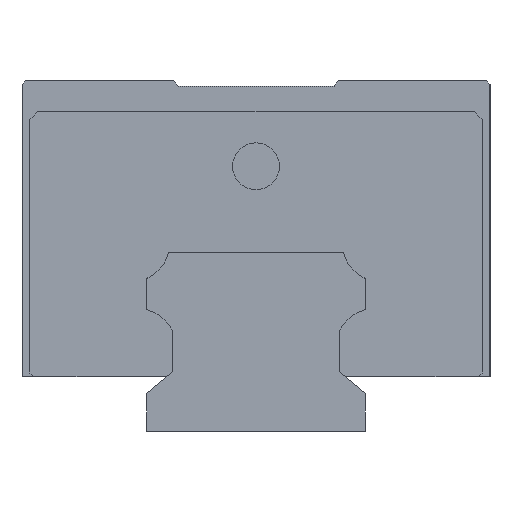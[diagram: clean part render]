
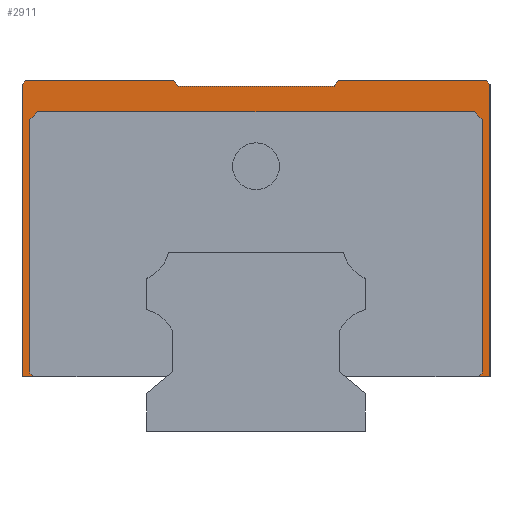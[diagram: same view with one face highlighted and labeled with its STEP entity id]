
A CAD part, left-side view. The second image highlights one B-rep face of the part: STEP entity #2911.
In plain terms, the highlighted planar face has unit normal (-1, 0, 0).
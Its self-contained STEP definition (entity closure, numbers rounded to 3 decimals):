
#21 = ORIENTED_EDGE ( 'NONE', *, *, #3723, .T. ) ;
#41 = DIRECTION ( 'NONE',  ( 0., -1., 0. ) ) ;
#42 = ORIENTED_EDGE ( 'NONE', *, *, #3996, .F. ) ;
#56 = CARTESIAN_POINT ( 'NONE',  ( -34.65, -30., 45. ) ) ;
#69 = CARTESIAN_POINT ( 'NONE',  ( -34.65, 29.5, 45. ) ) ;
#81 = LINE ( 'NONE', #1862, #2020 ) ;
#114 = VECTOR ( 'NONE', #4662, 1000. ) ;
#157 = VECTOR ( 'NONE', #41, 1000. ) ;
#183 = DIRECTION ( 'NONE',  ( 0., -0.707, 0.707 ) ) ;
#184 = ORIENTED_EDGE ( 'NONE', *, *, #1848, .F. ) ;
#218 = CARTESIAN_POINT ( 'NONE',  ( -34.65, 28., 41. ) ) ;
#281 = CARTESIAN_POINT ( 'NONE',  ( -34.65, -30., 44.5 ) ) ;
#308 = CARTESIAN_POINT ( 'NONE',  ( -34.65, -29., 40. ) ) ;
#385 = FACE_OUTER_BOUND ( 'NONE', #3831, .T. ) ;
#481 = ORIENTED_EDGE ( 'NONE', *, *, #494, .T. ) ;
#494 = EDGE_CURVE ( 'NONE', #1801, #672, #3940, .T. ) ;
#563 = CARTESIAN_POINT ( 'NONE',  ( -34.65, 28.5, 7. ) ) ;
#570 = VECTOR ( 'NONE', #1085, 1000. ) ;
#623 = VERTEX_POINT ( 'NONE', #281 ) ;
#636 = DIRECTION ( 'NONE',  ( 0., 0.707, -0.707 ) ) ;
#638 = DIRECTION ( 'NONE',  ( 0., 0.643, -0.766 ) ) ;
#672 = VERTEX_POINT ( 'NONE', #2614 ) ;
#690 = VERTEX_POINT ( 'NONE', #4053 ) ;
#738 = ORIENTED_EDGE ( 'NONE', *, *, #1367, .T. ) ;
#756 = EDGE_CURVE ( 'NONE', #623, #3307, #4089, .T. ) ;
#790 = EDGE_CURVE ( 'NONE', #2732, #1823, #81, .T. ) ;
#799 = LINE ( 'NONE', #2404, #5297 ) ;
#803 = EDGE_CURVE ( 'NONE', #4719, #5822, #2435, .T. ) ;
#829 = CARTESIAN_POINT ( 'NONE',  ( -34.65, 28., 41. ) ) ;
#963 = VECTOR ( 'NONE', #3617, 1000. ) ;
#999 = EDGE_CURVE ( 'NONE', #2915, #2759, #5748, .T. ) ;
#1017 = LINE ( 'NONE', #4706, #2856 ) ;
#1085 = DIRECTION ( 'NONE',  ( 0., 0.707, 0.707 ) ) ;
#1109 = ORIENTED_EDGE ( 'NONE', *, *, #4235, .F. ) ;
#1150 = AXIS2_PLACEMENT_3D ( 'NONE', #4103, #4899, #3158 ) ;
#1367 = EDGE_CURVE ( 'NONE', #2215, #2622, #3740, .T. ) ;
#1385 = EDGE_CURVE ( 'NONE', #623, #690, #5556, .T. ) ;
#1440 = EDGE_CURVE ( 'NONE', #5077, #2759, #1929, .T. ) ;
#1445 = DIRECTION ( 'NONE',  ( 0., -1., 0. ) ) ;
#1506 = ORIENTED_EDGE ( 'NONE', *, *, #4497, .F. ) ;
#1632 = CARTESIAN_POINT ( 'NONE',  ( -34.65, 29., 40. ) ) ;
#1695 = CARTESIAN_POINT ( 'NONE',  ( -34.65, 30., 45. ) ) ;
#1766 = CARTESIAN_POINT ( 'NONE',  ( -34.65, -30., 7. ) ) ;
#1768 = CARTESIAN_POINT ( 'NONE',  ( -34.65, -28., 41. ) ) ;
#1801 = VERTEX_POINT ( 'NONE', #563 ) ;
#1823 = VERTEX_POINT ( 'NONE', #218 ) ;
#1848 = EDGE_CURVE ( 'NONE', #2215, #690, #5492, .T. ) ;
#1858 = LINE ( 'NONE', #4991, #4843 ) ;
#1862 = CARTESIAN_POINT ( 'NONE',  ( -34.65, 29., 40. ) ) ;
#1868 = CARTESIAN_POINT ( 'NONE',  ( -34.65, 11.769, 7. ) ) ;
#1929 = LINE ( 'NONE', #5066, #4813 ) ;
#2020 = VECTOR ( 'NONE', #183, 1000. ) ;
#2073 = LINE ( 'NONE', #3878, #5685 ) ;
#2192 = DIRECTION ( 'NONE',  ( 0., 1., 0. ) ) ;
#2215 = VERTEX_POINT ( 'NONE', #3268 ) ;
#2404 = CARTESIAN_POINT ( 'NONE',  ( -34.65, 29.5, 45. ) ) ;
#2435 = LINE ( 'NONE', #4237, #3054 ) ;
#2470 = VECTOR ( 'NONE', #3359, 1000. ) ;
#2498 = ORIENTED_EDGE ( 'NONE', *, *, #3926, .T. ) ;
#2507 = LINE ( 'NONE', #5338, #5579 ) ;
#2585 = CARTESIAN_POINT ( 'NONE',  ( -34.65, 28.5, 7. ) ) ;
#2607 = DIRECTION ( 'NONE',  ( 0., 0., 1. ) ) ;
#2614 = CARTESIAN_POINT ( 'NONE',  ( -34.65, 29., 7.5 ) ) ;
#2622 = VERTEX_POINT ( 'NONE', #4316 ) ;
#2655 = LINE ( 'NONE', #4462, #5777 ) ;
#2675 = CARTESIAN_POINT ( 'NONE',  ( -34.65, 30., 44.5 ) ) ;
#2683 = ORIENTED_EDGE ( 'NONE', *, *, #1440, .T. ) ;
#2684 = CARTESIAN_POINT ( 'NONE',  ( -34.65, 30., 7. ) ) ;
#2732 = VERTEX_POINT ( 'NONE', #1632 ) ;
#2759 = VERTEX_POINT ( 'NONE', #5198 ) ;
#2856 = VECTOR ( 'NONE', #4297, 1000. ) ;
#2870 = CARTESIAN_POINT ( 'NONE',  ( -34.65, -29., 7.5 ) ) ;
#2876 = CARTESIAN_POINT ( 'NONE',  ( -34.65, -10.629, 45. ) ) ;
#2902 = CARTESIAN_POINT ( 'NONE',  ( -34.65, -28.5, 7. ) ) ;
#2911 = ADVANCED_FACE ( 'NONE', ( #385 ), #5809, .F. ) ;
#2915 = VERTEX_POINT ( 'NONE', #69 ) ;
#3000 = VERTEX_POINT ( 'NONE', #2684 ) ;
#3036 = VECTOR ( 'NONE', #1445, 1000. ) ;
#3054 = VECTOR ( 'NONE', #5259, 1000. ) ;
#3158 = DIRECTION ( 'NONE',  ( 0., 1., 0. ) ) ;
#3236 = EDGE_CURVE ( 'NONE', #5822, #4098, #2073, .T. ) ;
#3268 = CARTESIAN_POINT ( 'NONE',  ( -34.65, -10.629, 45. ) ) ;
#3307 = VERTEX_POINT ( 'NONE', #1766 ) ;
#3324 = DIRECTION ( 'NONE',  ( 0., -0.707, -0.707 ) ) ;
#3353 = EDGE_CURVE ( 'NONE', #1823, #4215, #4877, .T. ) ;
#3359 = DIRECTION ( 'NONE',  ( 0., 0., 1. ) ) ;
#3367 = ORIENTED_EDGE ( 'NONE', *, *, #790, .T. ) ;
#3617 = DIRECTION ( 'NONE',  ( 0., 0., -1. ) ) ;
#3709 = ORIENTED_EDGE ( 'NONE', *, *, #4872, .T. ) ;
#3723 = EDGE_CURVE ( 'NONE', #2915, #4360, #799, .T. ) ;
#3740 = LINE ( 'NONE', #2876, #3804 ) ;
#3804 = VECTOR ( 'NONE', #638, 1000. ) ;
#3816 = CARTESIAN_POINT ( 'NONE',  ( -34.65, 30., 45. ) ) ;
#3831 = EDGE_LOOP ( 'NONE', ( #1506, #481, #3709, #3367, #4619, #2498, #4193, #4035, #42, #5592, #4226, #184, #738, #5374, #2683, #5221, #21, #1109 ) ) ;
#3878 = CARTESIAN_POINT ( 'NONE',  ( -34.65, -29., 7.5 ) ) ;
#3926 = EDGE_CURVE ( 'NONE', #4215, #4719, #1858, .T. ) ;
#3940 = LINE ( 'NONE', #2585, #5003 ) ;
#3996 = EDGE_CURVE ( 'NONE', #3307, #4098, #1017, .T. ) ;
#4023 = DIRECTION ( 'NONE',  ( 0., 0.707, 0.707 ) ) ;
#4035 = ORIENTED_EDGE ( 'NONE', *, *, #3236, .T. ) ;
#4053 = CARTESIAN_POINT ( 'NONE',  ( -34.65, -29.5, 45. ) ) ;
#4089 = LINE ( 'NONE', #56, #963 ) ;
#4098 = VERTEX_POINT ( 'NONE', #2902 ) ;
#4103 = CARTESIAN_POINT ( 'NONE',  ( -34.65, -30., 45. ) ) ;
#4169 = VECTOR ( 'NONE', #4427, 1000. ) ;
#4193 = ORIENTED_EDGE ( 'NONE', *, *, #803, .T. ) ;
#4215 = VERTEX_POINT ( 'NONE', #1768 ) ;
#4226 = ORIENTED_EDGE ( 'NONE', *, *, #1385, .T. ) ;
#4235 = EDGE_CURVE ( 'NONE', #3000, #4360, #2655, .T. ) ;
#4237 = CARTESIAN_POINT ( 'NONE',  ( -34.65, -29., 40. ) ) ;
#4297 = DIRECTION ( 'NONE',  ( 0., 1., 0. ) ) ;
#4316 = CARTESIAN_POINT ( 'NONE',  ( -34.65, -10., 44.25 ) ) ;
#4360 = VERTEX_POINT ( 'NONE', #2675 ) ;
#4407 = CARTESIAN_POINT ( 'NONE',  ( -34.65, 10., 44.25 ) ) ;
#4427 = DIRECTION ( 'NONE',  ( 0., -1., 0. ) ) ;
#4462 = CARTESIAN_POINT ( 'NONE',  ( -34.65, 30., 7. ) ) ;
#4497 = EDGE_CURVE ( 'NONE', #1801, #3000, #4595, .T. ) ;
#4595 = LINE ( 'NONE', #1868, #114 ) ;
#4619 = ORIENTED_EDGE ( 'NONE', *, *, #3353, .T. ) ;
#4662 = DIRECTION ( 'NONE',  ( 0., 1., 0. ) ) ;
#4706 = CARTESIAN_POINT ( 'NONE',  ( -34.65, -30., 7. ) ) ;
#4708 = DIRECTION ( 'NONE',  ( 0., 0.643, 0.766 ) ) ;
#4719 = VERTEX_POINT ( 'NONE', #308 ) ;
#4813 = VECTOR ( 'NONE', #4708, 1000. ) ;
#4843 = VECTOR ( 'NONE', #3324, 1000. ) ;
#4872 = EDGE_CURVE ( 'NONE', #672, #2732, #5176, .T. ) ;
#4877 = LINE ( 'NONE', #829, #4169 ) ;
#4899 = DIRECTION ( 'NONE',  ( 1., 0., 0. ) ) ;
#4991 = CARTESIAN_POINT ( 'NONE',  ( -34.65, -28., 41. ) ) ;
#5003 = VECTOR ( 'NONE', #4023, 1000. ) ;
#5066 = CARTESIAN_POINT ( 'NONE',  ( -34.65, 10., 44.25 ) ) ;
#5077 = VERTEX_POINT ( 'NONE', #4407 ) ;
#5126 = CARTESIAN_POINT ( 'NONE',  ( -34.65, -30., 44.5 ) ) ;
#5176 = LINE ( 'NONE', #5237, #2470 ) ;
#5198 = CARTESIAN_POINT ( 'NONE',  ( -34.65, 10.629, 45. ) ) ;
#5221 = ORIENTED_EDGE ( 'NONE', *, *, #999, .F. ) ;
#5237 = CARTESIAN_POINT ( 'NONE',  ( -34.65, 29., 7.5 ) ) ;
#5259 = DIRECTION ( 'NONE',  ( 0., 0., -1. ) ) ;
#5297 = VECTOR ( 'NONE', #636, 1000. ) ;
#5338 = CARTESIAN_POINT ( 'NONE',  ( -34.65, -10., 44.25 ) ) ;
#5374 = ORIENTED_EDGE ( 'NONE', *, *, #5442, .T. ) ;
#5398 = DIRECTION ( 'NONE',  ( 0., 0.707, -0.707 ) ) ;
#5442 = EDGE_CURVE ( 'NONE', #2622, #5077, #2507, .T. ) ;
#5492 = LINE ( 'NONE', #3816, #3036 ) ;
#5556 = LINE ( 'NONE', #5126, #570 ) ;
#5579 = VECTOR ( 'NONE', #2192, 1000. ) ;
#5592 = ORIENTED_EDGE ( 'NONE', *, *, #756, .F. ) ;
#5685 = VECTOR ( 'NONE', #5398, 1000. ) ;
#5748 = LINE ( 'NONE', #1695, #157 ) ;
#5777 = VECTOR ( 'NONE', #2607, 1000. ) ;
#5809 = PLANE ( 'NONE',  #1150 ) ;
#5822 = VERTEX_POINT ( 'NONE', #2870 ) ;
